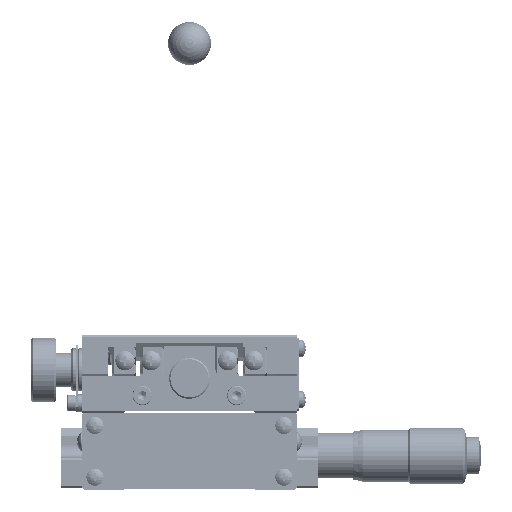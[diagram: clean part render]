
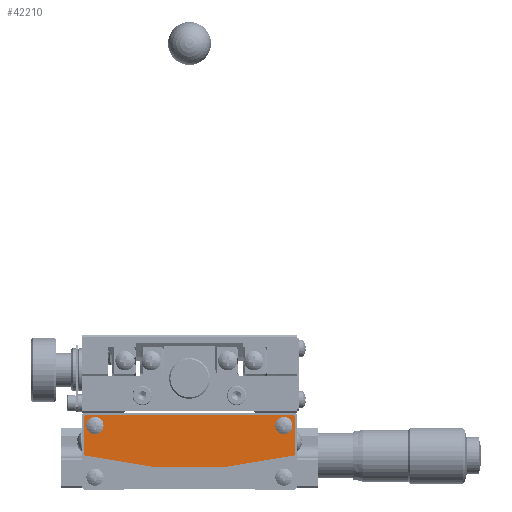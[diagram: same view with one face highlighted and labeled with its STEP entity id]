
A CAD part, front view. The second image highlights one B-rep face of the part: STEP entity #42210.
In plain terms, the highlighted planar face has unit normal (0, -1, 0).
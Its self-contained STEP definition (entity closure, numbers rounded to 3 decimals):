
#3426 = CARTESIAN_POINT ( 'NONE',  ( 24.5, -25.5, -9.921 ) ) ;
#3471 = CARTESIAN_POINT ( 'NONE',  ( -24.5, -25.5, -9.921 ) ) ;
#3472 = DIRECTION ( 'NONE',  ( 1., 0., 0. ) ) ;
#3473 = DIRECTION ( 'NONE',  ( 0., -1., 0. ) ) ;
#3474 = CARTESIAN_POINT ( 'NONE',  ( 0., -25.5, 86. ) ) ;
#3475 = AXIS2_PLACEMENT_3D ( 'NONE', #3474, #3473, #3472 ) ;
#3476 = CIRCLE ( 'NONE', #3475, 99. ) ;
#6389 = DIRECTION ( 'NONE',  ( 0., 0., -1. ) ) ;
#6390 = DIRECTION ( 'NONE',  ( 0., 1., 0. ) ) ;
#6391 = CARTESIAN_POINT ( 'NONE',  ( 22., -25.5, -3. ) ) ;
#6392 = AXIS2_PLACEMENT_3D ( 'NONE', #6391, #6390, #6389 ) ;
#6393 = CIRCLE ( 'NONE', #6392, 2. ) ;
#7135 = DIRECTION ( 'NONE',  ( 0., 0., -1. ) ) ;
#7136 = DIRECTION ( 'NONE',  ( 0., 1., 0. ) ) ;
#7137 = CARTESIAN_POINT ( 'NONE',  ( -22., -25.5, -3. ) ) ;
#7138 = AXIS2_PLACEMENT_3D ( 'NONE', #7137, #7136, #7135 ) ;
#7139 = CIRCLE ( 'NONE', #7138, 2. ) ;
#7670 = DIRECTION ( 'NONE',  ( -0.707, 0., 0.707 ) ) ;
#7671 = VECTOR ( 'NONE', #7670, 1000. ) ;
#7672 = CARTESIAN_POINT ( 'NONE',  ( 24.5, -25.5, -0.8 ) ) ;
#7673 = LINE ( 'NONE', #7672, #7671 ) ;
#7717 = FACE_OUTER_BOUND ( 'NONE', #42251, .T. ) ;
#7718 = FACE_BOUND ( 'NONE', #42232, .T. ) ;
#7719 = FACE_BOUND ( 'NONE', #42213, .T. ) ;
#7736 = DIRECTION ( 'NONE',  ( 0., 0., 1. ) ) ;
#7737 = VECTOR ( 'NONE', #7736, 1000. ) ;
#7738 = CARTESIAN_POINT ( 'NONE',  ( 24.5, -25.5, -9.921 ) ) ;
#7739 = LINE ( 'NONE', #7738, #7737 ) ;
#7780 = DIRECTION ( 'NONE',  ( 1., 0., 0. ) ) ;
#7781 = DIRECTION ( 'NONE',  ( 0., -1., 0. ) ) ;
#7782 = CARTESIAN_POINT ( 'NONE',  ( 0., -25.5, 86. ) ) ;
#7783 = AXIS2_PLACEMENT_3D ( 'NONE', #7782, #7781, #7780 ) ;
#7784 = PLANE ( 'NONE',  #7783 ) ;
#7785 = LINE ( 'NONE', #7791, #7850 ) ;
#7791 = CARTESIAN_POINT ( 'NONE',  ( -24.2, -25.5, -0.5 ) ) ;
#7792 = CARTESIAN_POINT ( 'NONE',  ( -24.2, -25.5, -0.5 ) ) ;
#7793 = DIRECTION ( 'NONE',  ( -1., 0., 0. ) ) ;
#7794 = VECTOR ( 'NONE', #7793, 1000. ) ;
#7795 = CARTESIAN_POINT ( 'NONE',  ( 24.2, -25.5, -0.5 ) ) ;
#7796 = LINE ( 'NONE', #7795, #7794 ) ;
#7807 = CARTESIAN_POINT ( 'NONE',  ( 24.2, -25.5, -0.5 ) ) ;
#7808 = CARTESIAN_POINT ( 'NONE',  ( 24.5, -25.5, -0.8 ) ) ;
#7842 = DIRECTION ( 'NONE',  ( 0., 0., -1. ) ) ;
#7843 = VECTOR ( 'NONE', #7842, 1000. ) ;
#7844 = CARTESIAN_POINT ( 'NONE',  ( -24.5, -25.5, -0.8 ) ) ;
#7845 = LINE ( 'NONE', #7844, #7843 ) ;
#7847 = CARTESIAN_POINT ( 'NONE',  ( -24.5, -25.5, -0.8 ) ) ;
#7849 = DIRECTION ( 'NONE',  ( -0.707, 0., -0.707 ) ) ;
#7850 = VECTOR ( 'NONE', #7849, 1000. ) ;
#37704 = VERTEX_POINT ( 'NONE', #3426 ) ;
#37715 = EDGE_CURVE ( 'NONE', #37721, #37704, #3476, .T. ) ;
#37721 = VERTEX_POINT ( 'NONE', #3471 ) ;
#40797 = EDGE_CURVE ( 'NONE', #94970, #95109, #6393, .T. ) ;
#41548 = EDGE_CURVE ( 'NONE', #94899, #94898, #7139, .T. ) ;
#42105 = ORIENTED_EDGE ( 'NONE', *, *, #42110, .T. ) ;
#42110 = EDGE_CURVE ( 'NONE', #42271, #42272, #7673, .T. ) ;
#42185 = EDGE_CURVE ( 'NONE', #37704, #42271, #7739, .T. ) ;
#42210 = ADVANCED_FACE ( 'NONE', ( #7719, #7718, #7717 ), #7784, .T. ) ;
#42213 = EDGE_LOOP ( 'NONE', ( #42221, #42225 ) ) ;
#42221 = ORIENTED_EDGE ( 'NONE', *, *, #40797, .T. ) ;
#42225 = ORIENTED_EDGE ( 'NONE', *, *, #95108, .T. ) ;
#42232 = EDGE_LOOP ( 'NONE', ( #42240, #42246 ) ) ;
#42240 = ORIENTED_EDGE ( 'NONE', *, *, #41548, .T. ) ;
#42246 = ORIENTED_EDGE ( 'NONE', *, *, #94896, .T. ) ;
#42251 = EDGE_LOOP ( 'NONE', ( #42105, #42280, #42294, #42309, #42321, #42327 ) ) ;
#42271 = VERTEX_POINT ( 'NONE', #7808 ) ;
#42272 = VERTEX_POINT ( 'NONE', #7807 ) ;
#42280 = ORIENTED_EDGE ( 'NONE', *, *, #42285, .T. ) ;
#42285 = EDGE_CURVE ( 'NONE', #42272, #42290, #7796, .T. ) ;
#42290 = VERTEX_POINT ( 'NONE', #7792 ) ;
#42294 = ORIENTED_EDGE ( 'NONE', *, *, #42300, .T. ) ;
#42300 = EDGE_CURVE ( 'NONE', #42290, #42304, #7785, .T. ) ;
#42304 = VERTEX_POINT ( 'NONE', #7847 ) ;
#42309 = ORIENTED_EDGE ( 'NONE', *, *, #42313, .T. ) ;
#42313 = EDGE_CURVE ( 'NONE', #42304, #37721, #7845, .T. ) ;
#42321 = ORIENTED_EDGE ( 'NONE', *, *, #37715, .T. ) ;
#42327 = ORIENTED_EDGE ( 'NONE', *, *, #42185, .T. ) ;
#94896 = EDGE_CURVE ( 'NONE', #94898, #94899, #102054, .T. ) ;
#94898 = VERTEX_POINT ( 'NONE', #102045 ) ;
#94899 = VERTEX_POINT ( 'NONE', #102044 ) ;
#94970 = VERTEX_POINT ( 'NONE', #102136 ) ;
#95108 = EDGE_CURVE ( 'NONE', #95109, #94970, #102581, .T. ) ;
#95109 = VERTEX_POINT ( 'NONE', #102574 ) ;
#102044 = CARTESIAN_POINT ( 'NONE',  ( -20., -25.5, -3. ) ) ;
#102045 = CARTESIAN_POINT ( 'NONE',  ( -24., -25.5, -3. ) ) ;
#102047 = DIRECTION ( 'NONE',  ( 0., 0., -1. ) ) ;
#102049 = DIRECTION ( 'NONE',  ( 0., 1., 0. ) ) ;
#102050 = CARTESIAN_POINT ( 'NONE',  ( -22., -25.5, -3. ) ) ;
#102052 = AXIS2_PLACEMENT_3D ( 'NONE', #102050, #102049, #102047 ) ;
#102054 = CIRCLE ( 'NONE', #102052, 2. ) ;
#102136 = CARTESIAN_POINT ( 'NONE',  ( 24., -25.5, -3. ) ) ;
#102574 = CARTESIAN_POINT ( 'NONE',  ( 20., -25.5, -3. ) ) ;
#102576 = DIRECTION ( 'NONE',  ( 0., 0., -1. ) ) ;
#102577 = DIRECTION ( 'NONE',  ( 0., 1., 0. ) ) ;
#102579 = AXIS2_PLACEMENT_3D ( 'NONE', #102591, #102577, #102576 ) ;
#102581 = CIRCLE ( 'NONE', #102579, 2. ) ;
#102591 = CARTESIAN_POINT ( 'NONE',  ( 22., -25.5, -3. ) ) ;
